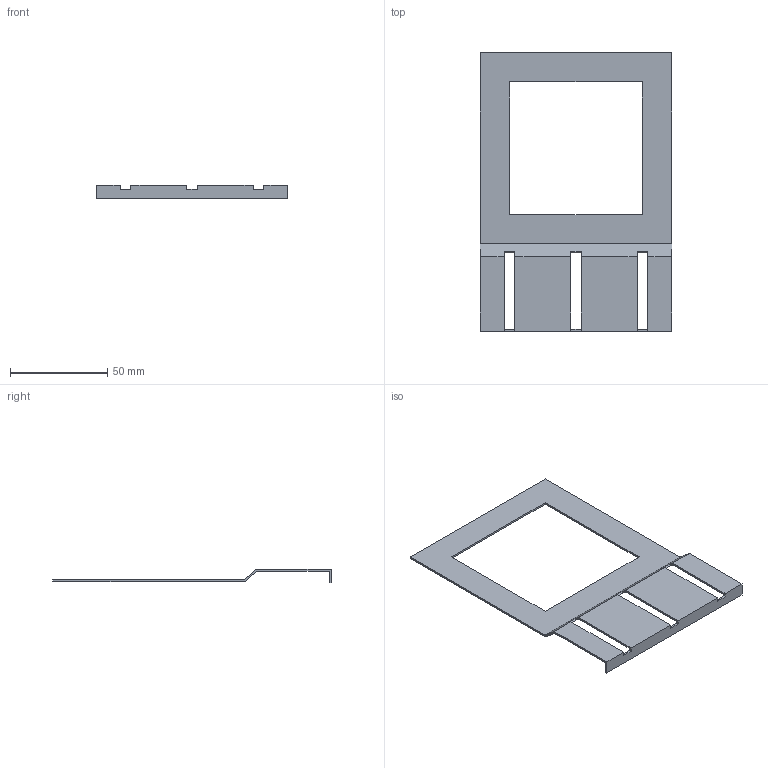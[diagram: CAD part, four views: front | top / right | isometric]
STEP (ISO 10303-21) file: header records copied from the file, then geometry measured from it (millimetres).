
FILE_DESCRIPTION(('Open CASCADE Model'),'2;1');
FILE_NAME('Open CASCADE Shape Model','2026-02-10T10:58:42',('Author'),( 'Open CASCADE'),'Open CASCADE STEP processor 7.8','Open CASCADE 7.8' ,'Unknown');
FILE_SCHEMA(('AUTOMOTIVE_DESIGN { 1 0 10303 214 1 1 1 1 }'));
Length unit declared in the file: millimetre
Products named in the file (2): Compound1; Solid1
Assembly tree (1 placements, depth 2):
  Compound1
    Solid1
Bounding box: 98.5 x 143.5 x 7 mm (x, y, z)
Volume: 9531.7 mm3; surface area: 20124.6 mm2
Topology: 1 solids, 1 shells, 70 faces, 222 edges, 148 vertices
Faces by surface type: plane 70
Entity records: 2450 total; most frequent: ORIENTED_EDGE 444, CARTESIAN_POINT 442, DIRECTION 366, EDGE_CURVE 222, LINE 222, VECTOR 222, VERTEX_POINT 148, AXIS2_PLACEMENT_3D 72
